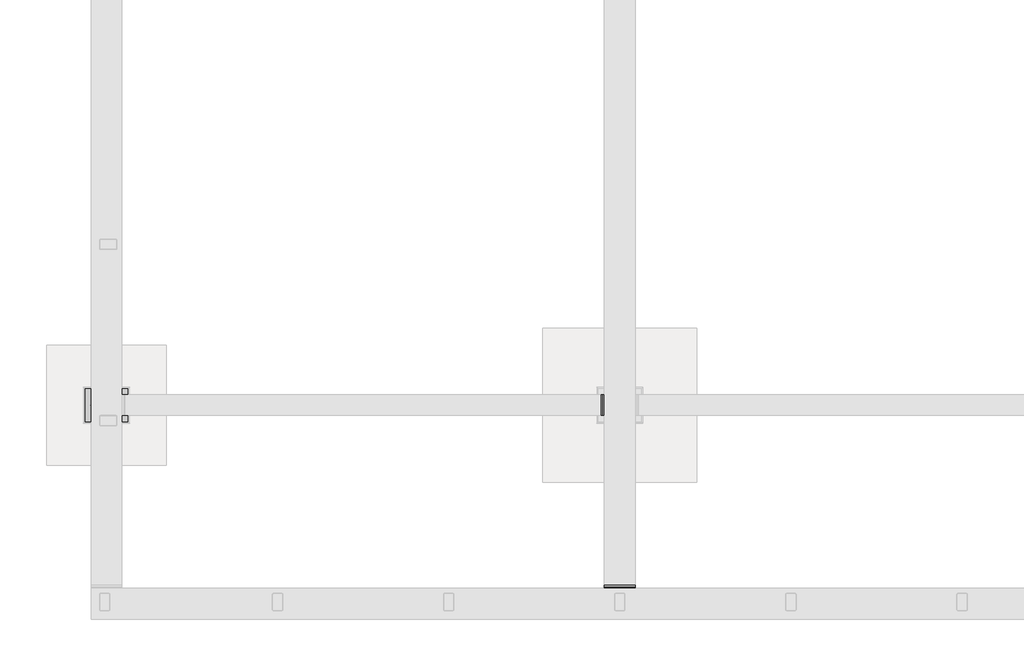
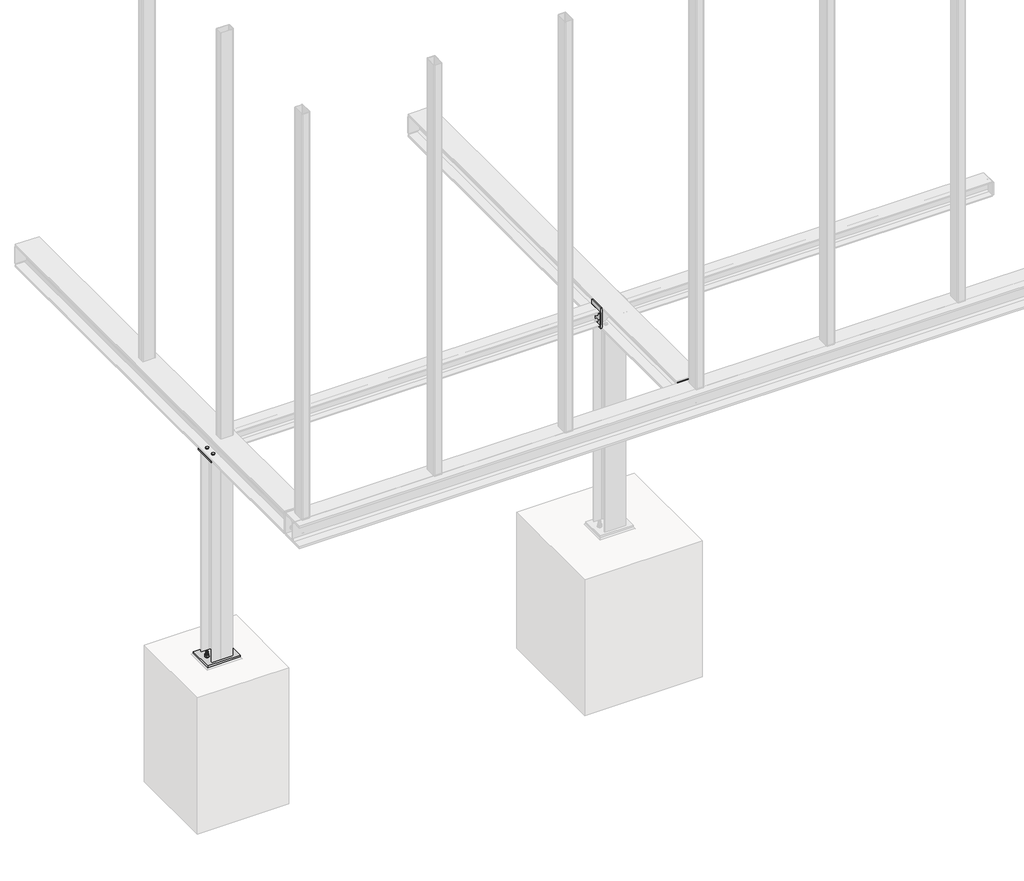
# One storey, part 4 of 31: 11 proxies.
"""IFC4 building model written with IfcOpenShell, lengths in millimetres."""

from ifc_helpers import new_model, si_unit, point, frame, frame_2d, origin, place, context, project, spatial, polyline, circle_curve, trimmed, segment, composite_curve, outline, extrude, element, save

model = new_model("IFC4")

# Units and contexts
model_context = context("Model", 3, world=origin())
ifc_project = project(units=[si_unit("LENGTHUNIT", "METRE", prefix="MILLI")], contexts=[model_context])

# Site, building, storey
site = spatial("IfcSite", under=ifc_project)
building = spatial("IfcBuilding", under=site)
storey = spatial("IfcBuildingStorey", under=building, Name="Základy", Elevation=-1200.0)

# Proxies
placement = place(None, origin())
element("IfcBuildingElementProxy", 1, Name="PLECH", ObjectType="PLECH", at=placement, inside=storey, context=model_context, shape_type="SweptSolid", body=[
    extrude(outline(polyline([(2940.0, 1200.0), (2940.0, 1320.0), (2950.0, 1320.0), (2950.0, 1200.0), (2940.0, 1200.0)])), frame((0.0, 0.0, -299.0), z_axis=(0.0, 0.0, 1.0), x_axis=(1.0, 0.0, 0.0)), (0.0, 0.0, 1.0), 98.0),
])
element("IfcBuildingElementProxy", 2, Name="PLECH", ObjectType="PLECH", at=placement, inside=storey, context=model_context, shape_type="SweptSolid", body=[
    extrude(outline(polyline([(2950.0, 1200.0), (2950.0, 1320.0), (2960.0, 1320.0), (2960.0, 1200.0), (2950.0, 1200.0)])), frame((0.0, 0.0, -332.0), z_axis=(0.0, 0.0, 1.0), x_axis=(1.0, 0.0, 0.0)), (0.0, 0.0, 1.0), 164.0),
])
element("IfcBuildingElementProxy", 3, Name="PLECH", ObjectType="PLECH", at=placement, inside=storey, context=model_context, shape_type="SweptSolid", body=[
    extrude(outline(polyline([(2960.0, 210.0), (3140.0, 210.0), (3140.0, 200.0), (2960.0, 200.0), (2960.0, 210.0)])), frame((0.0, 0.0, -332.0), z_axis=(0.0, 0.0, 1.0), x_axis=(1.0, 0.0, 0.0)), (0.0, 0.0, 1.0), 164.0),
])
element("IfcBuildingElementProxy", 4, Name="PLECH", ObjectType="PLECH", at=placement, inside=storey, context=model_context, shape_type="SweptSolid", body=[
    extrude(outline(composite_curve([segment(polyline([(190.0, -174.0), (190.0, -326.0), (124.25, -326.0)]), True, "CONTINUOUS"), segment(trimmed(circle_curve(frame_2d((104.25, -326.0)), 20.0), [point((124.25, -326.0))], [point((104.25, -306.0))], True, "CARTESIAN"), True, "CONTINUOUS"), segment(polyline([(104.25, -306.0), (104.25, -194.0)]), True, "CONTINUOUS"), segment(trimmed(circle_curve(frame_2d((104.25, -174.0)), 20.0), [point((104.25, -194.0))], [point((124.25, -174.0))], True, "CARTESIAN"), True, "CONTINUOUS"), segment(polyline([(124.25, -174.0), (190.0, -174.0)]), True, "CONTINUOUS")], self_intersect=False)), frame((3046.0, 0.0, 0.0), z_axis=(1.0, 0.0, 0.0), x_axis=(0.0, 1.0, 0.0)), (0.0, 0.0, 1.0), 8.0),
])
element("IfcBuildingElementProxy", 5, Name="PLECH", ObjectType="PLECH", at=placement, inside=storey, context=model_context, shape_type="SweptSolid", body=[
    extrude(outline(polyline([(2960.0, 200.0), (3140.0, 200.0), (3140.0, 190.0), (2960.0, 190.0), (2960.0, 200.0)])), frame((0.0, 0.0, -332.0), z_axis=(0.0, 0.0, 1.0), x_axis=(1.0, 0.0, 0.0)), (0.0, 0.0, 1.0), 164.0),
])
element("IfcBuildingElementProxy", 6, Name="PLECH", ObjectType="PLECH", at=placement, inside=storey, context=model_context, shape_type="SweptSolid", body=[
    extrude(outline(polyline([(175.0, 1356.0), (175.0, 1164.0), (-75.0, 1164.0), (-75.0, 1356.0), (175.0, 1356.0)])), frame((0.0, 0.0, -1990.0), z_axis=(0.0, 0.0, 1.0), x_axis=(1.0, 0.0, 0.0)), (0.0, 0.0, 1.0), 15.0),
])
element("IfcBuildingElementProxy", 7, Name="PLECH", ObjectType="PLECH", at=placement, inside=storey, context=model_context, shape_type="SweptSolid", body=[
    extrude(outline(polyline([(140.0, 1346.0), (140.0, 1174.0), (-40.0, 1174.0), (-40.0, 1346.0), (140.0, 1346.0)])), frame((0.0, 0.0, -350.0), z_axis=(0.0, 0.0, 1.0), x_axis=(1.0, 0.0, 0.0)), (0.0, 0.0, 1.0), 10.0),
])
element("IfcBuildingElementProxy", 8, Name="Bolt assembly", ObjectType="Bolt assembly", at=placement, inside=storey, context=model_context, shape_type="SweptSolid", body=[
    extrude(outline(composite_curve([segment(trimmed(circle_curve(frame_2d((1230.0, -225.0)), 6.5), [point((1230.0, -231.5))], [point((1230.0, -218.5))], False, "CARTESIAN"), True, "CONTINUOUS"), segment(trimmed(circle_curve(frame_2d((1230.0, -225.0)), 6.5), [point((1230.0, -218.5))], [point((1230.0, -231.5))], False, "CARTESIAN"), True, "CONTINUOUS")], self_intersect=False)), frame((140.1, 0.0, 0.0), z_axis=(1.0, 0.0, 0.0), x_axis=(0.0, 1.0, 0.0)), (0.0, 0.0, 1.0), 10.0),
    extrude(outline(polyline([(1230.0, -235.3923048), (1221.0, -230.1961524), (1221.0, -219.8038476), (1230.0, -214.6076952), (1239.0, -219.8038476), (1239.0, -230.1961524), (1230.0, -235.3923048)])), frame((130.0, 0.0, 0.0), z_axis=(1.0, 0.0, 0.0), x_axis=(0.0, 1.0, 0.0)), (0.0, 0.0, 1.0), 7.5),
    extrude(outline(composite_curve([segment(trimmed(circle_curve(frame_2d((1230.0, -225.0)), 6.0), [point((1230.0, -231.0))], [point((1230.0, -219.0))], False, "CARTESIAN"), True, "CONTINUOUS"), segment(trimmed(circle_curve(frame_2d((1230.0, -225.0)), 6.0), [point((1230.0, -219.0))], [point((1230.0, -231.0))], False, "CARTESIAN"), True, "CONTINUOUS")], self_intersect=False)), frame((137.5, 0.0, 0.0), z_axis=(1.0, 0.0, 0.0), x_axis=(0.0, 1.0, 0.0)), (0.0, 0.0, 1.0), 40.0),
    extrude(outline(composite_curve([segment(trimmed(circle_curve(frame_2d((1230.0, -225.0)), 12.0), [point((1230.0, -237.0))], [point((1230.0, -213.0))], False, "CARTESIAN"), True, "CONTINUOUS"), segment(trimmed(circle_curve(frame_2d((1230.0, -225.0)), 12.0), [point((1230.0, -213.0))], [point((1230.0, -237.0))], False, "CARTESIAN"), True, "CONTINUOUS")], self_intersect=False)), frame((137.5, 0.0, 0.0), z_axis=(1.0, 0.0, 0.0), x_axis=(0.0, 1.0, 0.0)), (0.0, 0.0, 1.0), 2.5),
    extrude(outline(composite_curve([segment(trimmed(circle_curve(frame_2d((1230.0, -225.0)), 12.0), [point((1230.0, -237.0))], [point((1230.0, -213.0))], False, "CARTESIAN"), True, "CONTINUOUS"), segment(trimmed(circle_curve(frame_2d((1230.0, -225.0)), 12.0), [point((1230.0, -213.0))], [point((1230.0, -237.0))], False, "CARTESIAN"), True, "CONTINUOUS")], self_intersect=False)), frame((160.0, 0.0, 0.0), z_axis=(1.0, 0.0, 0.0), x_axis=(0.0, 1.0, 0.0)), (0.0, 0.0, 1.0), 2.5),
    extrude(outline(polyline([(1230.0, -235.9696551), (1220.5, -230.4848276), (1220.5, -219.5151724), (1230.0, -214.0303449), (1239.5, -219.5151724), (1239.5, -230.4848276), (1230.0, -235.9696551)])), frame((162.5, 0.0, 0.0), z_axis=(1.0, 0.0, 0.0), x_axis=(0.0, 1.0, 0.0)), (0.0, 0.0, 1.0), 10.0),
    extrude(outline(composite_curve([segment(trimmed(circle_curve(frame_2d((1230.0, -225.0)), 6.5), [point((1230.0, -231.5))], [point((1230.0, -218.5))], False, "CARTESIAN"), True, "CONTINUOUS"), segment(trimmed(circle_curve(frame_2d((1230.0, -225.0)), 6.5), [point((1230.0, -218.5))], [point((1230.0, -231.5))], False, "CARTESIAN"), True, "CONTINUOUS")], self_intersect=False)), frame((149.9, 0.0, 0.0), z_axis=(1.0, 0.0, 0.0), x_axis=(0.0, 1.0, 0.0)), (0.0, 0.0, 1.0), 10.1),
    extrude(outline(composite_curve([segment(trimmed(circle_curve(frame_2d((1230.0, -275.0)), 6.5), [point((1230.0, -281.5))], [point((1230.0, -268.5))], False, "CARTESIAN"), True, "CONTINUOUS"), segment(trimmed(circle_curve(frame_2d((1230.0, -275.0)), 6.5), [point((1230.0, -268.5))], [point((1230.0, -281.5))], False, "CARTESIAN"), True, "CONTINUOUS")], self_intersect=False)), frame((140.1, 0.0, 0.0), z_axis=(1.0, 0.0, 0.0), x_axis=(0.0, 1.0, 0.0)), (0.0, 0.0, 1.0), 10.0),
    extrude(outline(polyline([(1230.0, -285.3923048), (1221.0, -280.1961524), (1221.0, -269.8038476), (1230.0, -264.6076952), (1239.0, -269.8038476), (1239.0, -280.1961524), (1230.0, -285.3923048)])), frame((130.0, 0.0, 0.0), z_axis=(1.0, 0.0, 0.0), x_axis=(0.0, 1.0, 0.0)), (0.0, 0.0, 1.0), 7.5),
    extrude(outline(composite_curve([segment(trimmed(circle_curve(frame_2d((1230.0, -275.0)), 6.0), [point((1230.0, -281.0))], [point((1230.0, -269.0))], False, "CARTESIAN"), True, "CONTINUOUS"), segment(trimmed(circle_curve(frame_2d((1230.0, -275.0)), 6.0), [point((1230.0, -269.0))], [point((1230.0, -281.0))], False, "CARTESIAN"), True, "CONTINUOUS")], self_intersect=False)), frame((137.5, 0.0, 0.0), z_axis=(1.0, 0.0, 0.0), x_axis=(0.0, 1.0, 0.0)), (0.0, 0.0, 1.0), 40.0),
    extrude(outline(composite_curve([segment(trimmed(circle_curve(frame_2d((1230.0, -275.0)), 12.0), [point((1230.0, -287.0))], [point((1230.0, -263.0))], False, "CARTESIAN"), True, "CONTINUOUS"), segment(trimmed(circle_curve(frame_2d((1230.0, -275.0)), 12.0), [point((1230.0, -263.0))], [point((1230.0, -287.0))], False, "CARTESIAN"), True, "CONTINUOUS")], self_intersect=False)), frame((137.5, 0.0, 0.0), z_axis=(1.0, 0.0, 0.0), x_axis=(0.0, 1.0, 0.0)), (0.0, 0.0, 1.0), 2.5),
    extrude(outline(composite_curve([segment(trimmed(circle_curve(frame_2d((1230.0, -275.0)), 12.0), [point((1230.0, -287.0))], [point((1230.0, -263.0))], False, "CARTESIAN"), True, "CONTINUOUS"), segment(trimmed(circle_curve(frame_2d((1230.0, -275.0)), 12.0), [point((1230.0, -263.0))], [point((1230.0, -287.0))], False, "CARTESIAN"), True, "CONTINUOUS")], self_intersect=False)), frame((160.0, 0.0, 0.0), z_axis=(1.0, 0.0, 0.0), x_axis=(0.0, 1.0, 0.0)), (0.0, 0.0, 1.0), 2.5),
    extrude(outline(polyline([(1230.0, -285.9696551), (1220.5, -280.4848276), (1220.5, -269.5151724), (1230.0, -264.0303449), (1239.5, -269.5151724), (1239.5, -280.4848276), (1230.0, -285.9696551)])), frame((162.5, 0.0, 0.0), z_axis=(1.0, 0.0, 0.0), x_axis=(0.0, 1.0, 0.0)), (0.0, 0.0, 1.0), 10.0),
    extrude(outline(composite_curve([segment(trimmed(circle_curve(frame_2d((1230.0, -275.0)), 6.5), [point((1230.0, -281.5))], [point((1230.0, -268.5))], False, "CARTESIAN"), True, "CONTINUOUS"), segment(trimmed(circle_curve(frame_2d((1230.0, -275.0)), 6.5), [point((1230.0, -268.5))], [point((1230.0, -281.5))], False, "CARTESIAN"), True, "CONTINUOUS")], self_intersect=False)), frame((149.9, 0.0, 0.0), z_axis=(1.0, 0.0, 0.0), x_axis=(0.0, 1.0, 0.0)), (0.0, 0.0, 1.0), 10.1),
    extrude(outline(composite_curve([segment(trimmed(circle_curve(frame_2d((1290.0, -225.0)), 6.5), [point((1290.0, -231.5))], [point((1290.0, -218.5))], False, "CARTESIAN"), True, "CONTINUOUS"), segment(trimmed(circle_curve(frame_2d((1290.0, -225.0)), 6.5), [point((1290.0, -218.5))], [point((1290.0, -231.5))], False, "CARTESIAN"), True, "CONTINUOUS")], self_intersect=False)), frame((140.1, 0.0, 0.0), z_axis=(1.0, 0.0, 0.0), x_axis=(0.0, 1.0, 0.0)), (0.0, 0.0, 1.0), 10.0),
    extrude(outline(polyline([(1290.0, -235.3923048), (1281.0, -230.1961524), (1281.0, -219.8038476), (1290.0, -214.6076952), (1299.0, -219.8038476), (1299.0, -230.1961524), (1290.0, -235.3923048)])), frame((130.0, 0.0, 0.0), z_axis=(1.0, 0.0, 0.0), x_axis=(0.0, 1.0, 0.0)), (0.0, 0.0, 1.0), 7.5),
    extrude(outline(composite_curve([segment(trimmed(circle_curve(frame_2d((1290.0, -225.0)), 6.0), [point((1290.0, -231.0))], [point((1290.0, -219.0))], False, "CARTESIAN"), True, "CONTINUOUS"), segment(trimmed(circle_curve(frame_2d((1290.0, -225.0)), 6.0), [point((1290.0, -219.0))], [point((1290.0, -231.0))], False, "CARTESIAN"), True, "CONTINUOUS")], self_intersect=False)), frame((137.5, 0.0, 0.0), z_axis=(1.0, 0.0, 0.0), x_axis=(0.0, 1.0, 0.0)), (0.0, 0.0, 1.0), 40.0),
    extrude(outline(composite_curve([segment(trimmed(circle_curve(frame_2d((1290.0, -225.0)), 12.0), [point((1290.0, -237.0))], [point((1290.0, -213.0))], False, "CARTESIAN"), True, "CONTINUOUS"), segment(trimmed(circle_curve(frame_2d((1290.0, -225.0)), 12.0), [point((1290.0, -213.0))], [point((1290.0, -237.0))], False, "CARTESIAN"), True, "CONTINUOUS")], self_intersect=False)), frame((137.5, 0.0, 0.0), z_axis=(1.0, 0.0, 0.0), x_axis=(0.0, 1.0, 0.0)), (0.0, 0.0, 1.0), 2.5),
    extrude(outline(composite_curve([segment(trimmed(circle_curve(frame_2d((1290.0, -225.0)), 12.0), [point((1290.0, -237.0))], [point((1290.0, -213.0))], False, "CARTESIAN"), True, "CONTINUOUS"), segment(trimmed(circle_curve(frame_2d((1290.0, -225.0)), 12.0), [point((1290.0, -213.0))], [point((1290.0, -237.0))], False, "CARTESIAN"), True, "CONTINUOUS")], self_intersect=False)), frame((160.0, 0.0, 0.0), z_axis=(1.0, 0.0, 0.0), x_axis=(0.0, 1.0, 0.0)), (0.0, 0.0, 1.0), 2.5),
    extrude(outline(polyline([(1290.0, -235.9696551), (1280.5, -230.4848276), (1280.5, -219.5151724), (1290.0, -214.0303449), (1299.5, -219.5151724), (1299.5, -230.4848276), (1290.0, -235.9696551)])), frame((162.5, 0.0, 0.0), z_axis=(1.0, 0.0, 0.0), x_axis=(0.0, 1.0, 0.0)), (0.0, 0.0, 1.0), 10.0),
    extrude(outline(composite_curve([segment(trimmed(circle_curve(frame_2d((1290.0, -225.0)), 6.5), [point((1290.0, -231.5))], [point((1290.0, -218.5))], False, "CARTESIAN"), True, "CONTINUOUS"), segment(trimmed(circle_curve(frame_2d((1290.0, -225.0)), 6.5), [point((1290.0, -218.5))], [point((1290.0, -231.5))], False, "CARTESIAN"), True, "CONTINUOUS")], self_intersect=False)), frame((149.9, 0.0, 0.0), z_axis=(1.0, 0.0, 0.0), x_axis=(0.0, 1.0, 0.0)), (0.0, 0.0, 1.0), 10.1),
    extrude(outline(composite_curve([segment(trimmed(circle_curve(frame_2d((1290.0, -275.0)), 6.5), [point((1290.0, -281.5))], [point((1290.0, -268.5))], False, "CARTESIAN"), True, "CONTINUOUS"), segment(trimmed(circle_curve(frame_2d((1290.0, -275.0)), 6.5), [point((1290.0, -268.5))], [point((1290.0, -281.5))], False, "CARTESIAN"), True, "CONTINUOUS")], self_intersect=False)), frame((140.1, 0.0, 0.0), z_axis=(1.0, 0.0, 0.0), x_axis=(0.0, 1.0, 0.0)), (0.0, 0.0, 1.0), 10.0),
    extrude(outline(polyline([(1290.0, -285.3923048), (1281.0, -280.1961524), (1281.0, -269.8038476), (1290.0, -264.6076952), (1299.0, -269.8038476), (1299.0, -280.1961524), (1290.0, -285.3923048)])), frame((130.0, 0.0, 0.0), z_axis=(1.0, 0.0, 0.0), x_axis=(0.0, 1.0, 0.0)), (0.0, 0.0, 1.0), 7.5),
    extrude(outline(composite_curve([segment(trimmed(circle_curve(frame_2d((1290.0, -275.0)), 6.0), [point((1290.0, -281.0))], [point((1290.0, -269.0))], False, "CARTESIAN"), True, "CONTINUOUS"), segment(trimmed(circle_curve(frame_2d((1290.0, -275.0)), 6.0), [point((1290.0, -269.0))], [point((1290.0, -281.0))], False, "CARTESIAN"), True, "CONTINUOUS")], self_intersect=False)), frame((137.5, 0.0, 0.0), z_axis=(1.0, 0.0, 0.0), x_axis=(0.0, 1.0, 0.0)), (0.0, 0.0, 1.0), 40.0),
    extrude(outline(composite_curve([segment(trimmed(circle_curve(frame_2d((1290.0, -275.0)), 12.0), [point((1290.0, -287.0))], [point((1290.0, -263.0))], False, "CARTESIAN"), True, "CONTINUOUS"), segment(trimmed(circle_curve(frame_2d((1290.0, -275.0)), 12.0), [point((1290.0, -263.0))], [point((1290.0, -287.0))], False, "CARTESIAN"), True, "CONTINUOUS")], self_intersect=False)), frame((137.5, 0.0, 0.0), z_axis=(1.0, 0.0, 0.0), x_axis=(0.0, 1.0, 0.0)), (0.0, 0.0, 1.0), 2.5),
    extrude(outline(composite_curve([segment(trimmed(circle_curve(frame_2d((1290.0, -275.0)), 12.0), [point((1290.0, -287.0))], [point((1290.0, -263.0))], False, "CARTESIAN"), True, "CONTINUOUS"), segment(trimmed(circle_curve(frame_2d((1290.0, -275.0)), 12.0), [point((1290.0, -263.0))], [point((1290.0, -287.0))], False, "CARTESIAN"), True, "CONTINUOUS")], self_intersect=False)), frame((160.0, 0.0, 0.0), z_axis=(1.0, 0.0, 0.0), x_axis=(0.0, 1.0, 0.0)), (0.0, 0.0, 1.0), 2.5),
    extrude(outline(polyline([(1290.0, -285.9696551), (1280.5, -280.4848276), (1280.5, -269.5151724), (1290.0, -264.0303449), (1299.5, -269.5151724), (1299.5, -280.4848276), (1290.0, -285.9696551)])), frame((162.5, 0.0, 0.0), z_axis=(1.0, 0.0, 0.0), x_axis=(0.0, 1.0, 0.0)), (0.0, 0.0, 1.0), 10.0),
    extrude(outline(composite_curve([segment(trimmed(circle_curve(frame_2d((1290.0, -275.0)), 6.5), [point((1290.0, -281.5))], [point((1290.0, -268.5))], False, "CARTESIAN"), True, "CONTINUOUS"), segment(trimmed(circle_curve(frame_2d((1290.0, -275.0)), 6.5), [point((1290.0, -268.5))], [point((1290.0, -281.5))], False, "CARTESIAN"), True, "CONTINUOUS")], self_intersect=False)), frame((149.9, 0.0, 0.0), z_axis=(1.0, 0.0, 0.0), x_axis=(0.0, 1.0, 0.0)), (0.0, 0.0, 1.0), 10.1),
])
element("IfcBuildingElementProxy", 9, Name="Bolt assembly", ObjectType="Bolt assembly", at=placement, inside=storey, context=model_context, shape_type="SweptSolid", body=[
    extrude(outline(composite_curve([segment(trimmed(circle_curve(frame_2d((-290.0, 3005.0)), 9.0), [point((-290.0, 3014.0))], [point((-290.0, 2996.0))], False, "CARTESIAN"), True, "CONTINUOUS"), segment(trimmed(circle_curve(frame_2d((-290.0, 3005.0)), 9.0), [point((-290.0, 2996.0))], [point((-290.0, 3014.0))], False, "CARTESIAN"), True, "CONTINUOUS")], self_intersect=False)), frame((0.0, 190.1, 0.0), z_axis=(0.0, 1.0, 0.0), x_axis=(0.0, 0.0, 1.0)), (0.0, 0.0, 1.0), 10.0),
    extrude(outline(polyline([(-290.0, 3018.8564065), (-278.0, 3011.9282032), (-278.0, 2998.0717968), (-290.0, 2991.1435935), (-302.0, 2998.0717968), (-302.0, 3011.9282032), (-290.0, 3018.8564065)])), frame((0.0, 177.0, 0.0), z_axis=(0.0, 1.0, 0.0), x_axis=(0.0, 0.0, 1.0)), (0.0, 0.0, 1.0), 10.0),
    extrude(outline(composite_curve([segment(trimmed(circle_curve(frame_2d((-290.0, 3005.0)), 8.0), [point((-290.0, 3013.0))], [point((-290.0, 2997.0))], False, "CARTESIAN"), True, "CONTINUOUS"), segment(trimmed(circle_curve(frame_2d((-290.0, 3005.0)), 8.0), [point((-290.0, 2997.0))], [point((-290.0, 3013.0))], False, "CARTESIAN"), True, "CONTINUOUS")], self_intersect=False)), frame((0.0, 187.0, 0.0), z_axis=(0.0, 1.0, 0.0), x_axis=(0.0, 0.0, 1.0)), (0.0, 0.0, 1.0), 50.0),
    extrude(outline(composite_curve([segment(trimmed(circle_curve(frame_2d((-290.0, 3005.0)), 15.0), [point((-290.0, 3020.0))], [point((-290.0, 2990.0))], False, "CARTESIAN"), True, "CONTINUOUS"), segment(trimmed(circle_curve(frame_2d((-290.0, 3005.0)), 15.0), [point((-290.0, 2990.0))], [point((-290.0, 3020.0))], False, "CARTESIAN"), True, "CONTINUOUS")], self_intersect=False)), frame((0.0, 187.0, 0.0), z_axis=(0.0, 1.0, 0.0), x_axis=(0.0, 0.0, 1.0)), (0.0, 0.0, 1.0), 3.0),
    extrude(outline(composite_curve([segment(trimmed(circle_curve(frame_2d((-290.0, 3005.0)), 15.0), [point((-290.0, 3020.0))], [point((-290.0, 2990.0))], False, "CARTESIAN"), True, "CONTINUOUS"), segment(trimmed(circle_curve(frame_2d((-290.0, 3005.0)), 15.0), [point((-290.0, 2990.0))], [point((-290.0, 3020.0))], False, "CARTESIAN"), True, "CONTINUOUS")], self_intersect=False)), frame((0.0, 210.0, 0.0), z_axis=(0.0, 1.0, 0.0), x_axis=(0.0, 0.0, 1.0)), (0.0, 0.0, 1.0), 3.0),
    extrude(outline(polyline([(-290.0, 3020.4441197), (-276.625, 3012.7220599), (-276.625, 2997.2779401), (-290.0, 2989.5558803), (-303.375, 2997.2779401), (-303.375, 3012.7220599), (-290.0, 3020.4441197)])), frame((0.0, 213.0, 0.0), z_axis=(0.0, 1.0, 0.0), x_axis=(0.0, 0.0, 1.0)), (0.0, 0.0, 1.0), 13.0),
    extrude(outline(composite_curve([segment(trimmed(circle_curve(frame_2d((-290.0, 3005.0)), 9.0), [point((-290.0, 3014.0))], [point((-290.0, 2996.0))], False, "CARTESIAN"), True, "CONTINUOUS"), segment(trimmed(circle_curve(frame_2d((-290.0, 3005.0)), 9.0), [point((-290.0, 2996.0))], [point((-290.0, 3014.0))], False, "CARTESIAN"), True, "CONTINUOUS")], self_intersect=False)), frame((0.0, 199.9, 0.0), z_axis=(0.0, 1.0, 0.0), x_axis=(0.0, 0.0, 1.0)), (0.0, 0.0, 1.0), 10.1),
    extrude(outline(composite_curve([segment(trimmed(circle_curve(frame_2d((-290.0, 3095.0)), 9.0), [point((-290.0, 3104.0))], [point((-290.0, 3086.0))], False, "CARTESIAN"), True, "CONTINUOUS"), segment(trimmed(circle_curve(frame_2d((-290.0, 3095.0)), 9.0), [point((-290.0, 3086.0))], [point((-290.0, 3104.0))], False, "CARTESIAN"), True, "CONTINUOUS")], self_intersect=False)), frame((0.0, 190.1, 0.0), z_axis=(0.0, 1.0, 0.0), x_axis=(0.0, 0.0, 1.0)), (0.0, 0.0, 1.0), 10.0),
    extrude(outline(polyline([(-290.0, 3108.8564065), (-278.0, 3101.9282032), (-278.0, 3088.0717968), (-290.0, 3081.1435935), (-302.0, 3088.0717968), (-302.0, 3101.9282032), (-290.0, 3108.8564065)])), frame((0.0, 177.0, 0.0), z_axis=(0.0, 1.0, 0.0), x_axis=(0.0, 0.0, 1.0)), (0.0, 0.0, 1.0), 10.0),
    extrude(outline(composite_curve([segment(trimmed(circle_curve(frame_2d((-290.0, 3095.0)), 8.0), [point((-290.0, 3103.0))], [point((-290.0, 3087.0))], False, "CARTESIAN"), True, "CONTINUOUS"), segment(trimmed(circle_curve(frame_2d((-290.0, 3095.0)), 8.0), [point((-290.0, 3087.0))], [point((-290.0, 3103.0))], False, "CARTESIAN"), True, "CONTINUOUS")], self_intersect=False)), frame((0.0, 187.0, 0.0), z_axis=(0.0, 1.0, 0.0), x_axis=(0.0, 0.0, 1.0)), (0.0, 0.0, 1.0), 50.0),
    extrude(outline(composite_curve([segment(trimmed(circle_curve(frame_2d((-290.0, 3095.0)), 15.0), [point((-290.0, 3110.0))], [point((-290.0, 3080.0))], False, "CARTESIAN"), True, "CONTINUOUS"), segment(trimmed(circle_curve(frame_2d((-290.0, 3095.0)), 15.0), [point((-290.0, 3080.0))], [point((-290.0, 3110.0))], False, "CARTESIAN"), True, "CONTINUOUS")], self_intersect=False)), frame((0.0, 187.0, 0.0), z_axis=(0.0, 1.0, 0.0), x_axis=(0.0, 0.0, 1.0)), (0.0, 0.0, 1.0), 3.0),
    extrude(outline(composite_curve([segment(trimmed(circle_curve(frame_2d((-290.0, 3095.0)), 15.0), [point((-290.0, 3110.0))], [point((-290.0, 3080.0))], False, "CARTESIAN"), True, "CONTINUOUS"), segment(trimmed(circle_curve(frame_2d((-290.0, 3095.0)), 15.0), [point((-290.0, 3080.0))], [point((-290.0, 3110.0))], False, "CARTESIAN"), True, "CONTINUOUS")], self_intersect=False)), frame((0.0, 210.0, 0.0), z_axis=(0.0, 1.0, 0.0), x_axis=(0.0, 0.0, 1.0)), (0.0, 0.0, 1.0), 3.0),
    extrude(outline(polyline([(-290.0, 3110.4441197), (-276.625, 3102.7220599), (-276.625, 3087.2779401), (-290.0, 3079.5558803), (-303.375, 3087.2779401), (-303.375, 3102.7220599), (-290.0, 3110.4441197)])), frame((0.0, 213.0, 0.0), z_axis=(0.0, 1.0, 0.0), x_axis=(0.0, 0.0, 1.0)), (0.0, 0.0, 1.0), 13.0),
    extrude(outline(composite_curve([segment(trimmed(circle_curve(frame_2d((-290.0, 3095.0)), 9.0), [point((-290.0, 3104.0))], [point((-290.0, 3086.0))], False, "CARTESIAN"), True, "CONTINUOUS"), segment(trimmed(circle_curve(frame_2d((-290.0, 3095.0)), 9.0), [point((-290.0, 3086.0))], [point((-290.0, 3104.0))], False, "CARTESIAN"), True, "CONTINUOUS")], self_intersect=False)), frame((0.0, 199.9, 0.0), z_axis=(0.0, 1.0, 0.0), x_axis=(0.0, 0.0, 1.0)), (0.0, 0.0, 1.0), 10.1),
    extrude(outline(composite_curve([segment(trimmed(circle_curve(frame_2d((-210.0, 3005.0)), 9.0), [point((-210.0, 3014.0))], [point((-210.0, 2996.0))], False, "CARTESIAN"), True, "CONTINUOUS"), segment(trimmed(circle_curve(frame_2d((-210.0, 3005.0)), 9.0), [point((-210.0, 2996.0))], [point((-210.0, 3014.0))], False, "CARTESIAN"), True, "CONTINUOUS")], self_intersect=False)), frame((0.0, 190.1, 0.0), z_axis=(0.0, 1.0, 0.0), x_axis=(0.0, 0.0, 1.0)), (0.0, 0.0, 1.0), 10.0),
    extrude(outline(polyline([(-210.0, 3018.8564065), (-198.0, 3011.9282032), (-198.0, 2998.0717968), (-210.0, 2991.1435935), (-222.0, 2998.0717968), (-222.0, 3011.9282032), (-210.0, 3018.8564065)])), frame((0.0, 177.0, 0.0), z_axis=(0.0, 1.0, 0.0), x_axis=(0.0, 0.0, 1.0)), (0.0, 0.0, 1.0), 10.0),
    extrude(outline(composite_curve([segment(trimmed(circle_curve(frame_2d((-210.0, 3005.0)), 8.0), [point((-210.0, 3013.0))], [point((-210.0, 2997.0))], False, "CARTESIAN"), True, "CONTINUOUS"), segment(trimmed(circle_curve(frame_2d((-210.0, 3005.0)), 8.0), [point((-210.0, 2997.0))], [point((-210.0, 3013.0))], False, "CARTESIAN"), True, "CONTINUOUS")], self_intersect=False)), frame((0.0, 187.0, 0.0), z_axis=(0.0, 1.0, 0.0), x_axis=(0.0, 0.0, 1.0)), (0.0, 0.0, 1.0), 50.0),
    extrude(outline(composite_curve([segment(trimmed(circle_curve(frame_2d((-210.0, 3005.0)), 15.0), [point((-210.0, 3020.0))], [point((-210.0, 2990.0))], False, "CARTESIAN"), True, "CONTINUOUS"), segment(trimmed(circle_curve(frame_2d((-210.0, 3005.0)), 15.0), [point((-210.0, 2990.0))], [point((-210.0, 3020.0))], False, "CARTESIAN"), True, "CONTINUOUS")], self_intersect=False)), frame((0.0, 187.0, 0.0), z_axis=(0.0, 1.0, 0.0), x_axis=(0.0, 0.0, 1.0)), (0.0, 0.0, 1.0), 3.0),
    extrude(outline(composite_curve([segment(trimmed(circle_curve(frame_2d((-210.0, 3005.0)), 15.0), [point((-210.0, 3020.0))], [point((-210.0, 2990.0))], False, "CARTESIAN"), True, "CONTINUOUS"), segment(trimmed(circle_curve(frame_2d((-210.0, 3005.0)), 15.0), [point((-210.0, 2990.0))], [point((-210.0, 3020.0))], False, "CARTESIAN"), True, "CONTINUOUS")], self_intersect=False)), frame((0.0, 210.0, 0.0), z_axis=(0.0, 1.0, 0.0), x_axis=(0.0, 0.0, 1.0)), (0.0, 0.0, 1.0), 3.0),
    extrude(outline(polyline([(-210.0, 3020.4441197), (-196.625, 3012.7220599), (-196.625, 2997.2779401), (-210.0, 2989.5558803), (-223.375, 2997.2779401), (-223.375, 3012.7220599), (-210.0, 3020.4441197)])), frame((0.0, 213.0, 0.0), z_axis=(0.0, 1.0, 0.0), x_axis=(0.0, 0.0, 1.0)), (0.0, 0.0, 1.0), 13.0),
    extrude(outline(composite_curve([segment(trimmed(circle_curve(frame_2d((-210.0, 3005.0)), 9.0), [point((-210.0, 3014.0))], [point((-210.0, 2996.0))], False, "CARTESIAN"), True, "CONTINUOUS"), segment(trimmed(circle_curve(frame_2d((-210.0, 3005.0)), 9.0), [point((-210.0, 2996.0))], [point((-210.0, 3014.0))], False, "CARTESIAN"), True, "CONTINUOUS")], self_intersect=False)), frame((0.0, 199.9, 0.0), z_axis=(0.0, 1.0, 0.0), x_axis=(0.0, 0.0, 1.0)), (0.0, 0.0, 1.0), 10.1),
    extrude(outline(composite_curve([segment(trimmed(circle_curve(frame_2d((-210.0, 3095.0)), 9.0), [point((-210.0, 3104.0))], [point((-210.0, 3086.0))], False, "CARTESIAN"), True, "CONTINUOUS"), segment(trimmed(circle_curve(frame_2d((-210.0, 3095.0)), 9.0), [point((-210.0, 3086.0))], [point((-210.0, 3104.0))], False, "CARTESIAN"), True, "CONTINUOUS")], self_intersect=False)), frame((0.0, 190.1, 0.0), z_axis=(0.0, 1.0, 0.0), x_axis=(0.0, 0.0, 1.0)), (0.0, 0.0, 1.0), 10.0),
    extrude(outline(polyline([(-210.0, 3108.8564065), (-198.0, 3101.9282032), (-198.0, 3088.0717968), (-210.0, 3081.1435935), (-222.0, 3088.0717968), (-222.0, 3101.9282032), (-210.0, 3108.8564065)])), frame((0.0, 177.0, 0.0), z_axis=(0.0, 1.0, 0.0), x_axis=(0.0, 0.0, 1.0)), (0.0, 0.0, 1.0), 10.0),
    extrude(outline(composite_curve([segment(trimmed(circle_curve(frame_2d((-210.0, 3095.0)), 8.0), [point((-210.0, 3103.0))], [point((-210.0, 3087.0))], False, "CARTESIAN"), True, "CONTINUOUS"), segment(trimmed(circle_curve(frame_2d((-210.0, 3095.0)), 8.0), [point((-210.0, 3087.0))], [point((-210.0, 3103.0))], False, "CARTESIAN"), True, "CONTINUOUS")], self_intersect=False)), frame((0.0, 187.0, 0.0), z_axis=(0.0, 1.0, 0.0), x_axis=(0.0, 0.0, 1.0)), (0.0, 0.0, 1.0), 50.0),
    extrude(outline(composite_curve([segment(trimmed(circle_curve(frame_2d((-210.0, 3095.0)), 15.0), [point((-210.0, 3110.0))], [point((-210.0, 3080.0))], False, "CARTESIAN"), True, "CONTINUOUS"), segment(trimmed(circle_curve(frame_2d((-210.0, 3095.0)), 15.0), [point((-210.0, 3080.0))], [point((-210.0, 3110.0))], False, "CARTESIAN"), True, "CONTINUOUS")], self_intersect=False)), frame((0.0, 187.0, 0.0), z_axis=(0.0, 1.0, 0.0), x_axis=(0.0, 0.0, 1.0)), (0.0, 0.0, 1.0), 3.0),
    extrude(outline(composite_curve([segment(trimmed(circle_curve(frame_2d((-210.0, 3095.0)), 15.0), [point((-210.0, 3110.0))], [point((-210.0, 3080.0))], False, "CARTESIAN"), True, "CONTINUOUS"), segment(trimmed(circle_curve(frame_2d((-210.0, 3095.0)), 15.0), [point((-210.0, 3080.0))], [point((-210.0, 3110.0))], False, "CARTESIAN"), True, "CONTINUOUS")], self_intersect=False)), frame((0.0, 210.0, 0.0), z_axis=(0.0, 1.0, 0.0), x_axis=(0.0, 0.0, 1.0)), (0.0, 0.0, 1.0), 3.0),
    extrude(outline(polyline([(-210.0, 3110.4441197), (-196.625, 3102.7220599), (-196.625, 3087.2779401), (-210.0, 3079.5558803), (-223.375, 3087.2779401), (-223.375, 3102.7220599), (-210.0, 3110.4441197)])), frame((0.0, 213.0, 0.0), z_axis=(0.0, 1.0, 0.0), x_axis=(0.0, 0.0, 1.0)), (0.0, 0.0, 1.0), 13.0),
    extrude(outline(composite_curve([segment(trimmed(circle_curve(frame_2d((-210.0, 3095.0)), 9.0), [point((-210.0, 3104.0))], [point((-210.0, 3086.0))], False, "CARTESIAN"), True, "CONTINUOUS"), segment(trimmed(circle_curve(frame_2d((-210.0, 3095.0)), 9.0), [point((-210.0, 3086.0))], [point((-210.0, 3104.0))], False, "CARTESIAN"), True, "CONTINUOUS")], self_intersect=False)), frame((0.0, 199.9, 0.0), z_axis=(0.0, 1.0, 0.0), x_axis=(0.0, 0.0, 1.0)), (0.0, 0.0, 1.0), 10.1),
])
element("IfcBuildingElementProxy", 10, Name="Bolt assembly", ObjectType="Bolt assembly", at=placement, inside=storey, context=model_context, shape_type="SweptSolid", body=[
    extrude(outline(composite_curve([segment(trimmed(circle_curve(frame_2d((0.0, 1220.0)), 6.5), [point((6.5, 1220.0))], [point((-6.5, 1220.0))], False, "CARTESIAN"), True, "CONTINUOUS"), segment(trimmed(circle_curve(frame_2d((0.0, 1220.0)), 6.5), [point((-6.5, 1220.0))], [point((6.5, 1220.0))], False, "CARTESIAN"), True, "CONTINUOUS")], self_intersect=False)), frame((0.0, 0.0, -350.0), z_axis=(0.0, 0.0, 1.0), x_axis=(1.0, 0.0, 0.0)), (0.0, 0.0, 1.0), 10.1),
    extrude(outline(polyline([(10.3923048, 1220.0), (5.1961524, 1211.0), (-5.1961524, 1211.0), (-10.3923048, 1220.0), (-5.1961524, 1229.0), (5.1961524, 1229.0), (10.3923048, 1220.0)])), frame((0.0, 0.0, -323.5), z_axis=(0.0, 0.0, 1.0), x_axis=(1.0, 0.0, 0.0)), (0.0, 0.0, 1.0), 7.5),
    extrude(outline(composite_curve([segment(trimmed(circle_curve(frame_2d((0.0, 1220.0)), 6.0), [point((6.0, 1220.0))], [point((-6.0, 1220.0))], False, "CARTESIAN"), True, "CONTINUOUS"), segment(trimmed(circle_curve(frame_2d((0.0, 1220.0)), 6.0), [point((-6.0, 1220.0))], [point((6.0, 1220.0))], False, "CARTESIAN"), True, "CONTINUOUS")], self_intersect=False)), frame((0.0, 0.0, -368.5), z_axis=(0.0, 0.0, 1.0), x_axis=(1.0, 0.0, 0.0)), (0.0, 0.0, 1.0), 45.0),
    extrude(outline(composite_curve([segment(trimmed(circle_curve(frame_2d((0.0, 1220.0)), 12.0), [point((12.0, 1220.0))], [point((-12.0, 1220.0))], False, "CARTESIAN"), True, "CONTINUOUS"), segment(trimmed(circle_curve(frame_2d((0.0, 1220.0)), 12.0), [point((-12.0, 1220.0))], [point((12.0, 1220.0))], False, "CARTESIAN"), True, "CONTINUOUS")], self_intersect=False)), frame((0.0, 0.0, -326.0), z_axis=(0.0, 0.0, 1.0), x_axis=(1.0, 0.0, 0.0)), (0.0, 0.0, 1.0), 2.5),
    extrude(outline(composite_curve([segment(trimmed(circle_curve(frame_2d((0.0, 1220.0)), 12.0), [point((12.0, 1220.0))], [point((-12.0, 1220.0))], False, "CARTESIAN"), True, "CONTINUOUS"), segment(trimmed(circle_curve(frame_2d((0.0, 1220.0)), 12.0), [point((-12.0, 1220.0))], [point((12.0, 1220.0))], False, "CARTESIAN"), True, "CONTINUOUS")], self_intersect=False)), frame((0.0, 0.0, -352.5), z_axis=(0.0, 0.0, 1.0), x_axis=(1.0, 0.0, 0.0)), (0.0, 0.0, 1.0), 2.5),
    extrude(outline(polyline([(10.9696551, 1220.0), (5.4848276, 1210.5), (-5.4848276, 1210.5), (-10.9696551, 1220.0), (-5.4848276, 1229.5), (5.4848276, 1229.5), (10.9696551, 1220.0)])), frame((0.0, 0.0, -362.5), z_axis=(0.0, 0.0, 1.0), x_axis=(1.0, 0.0, 0.0)), (0.0, 0.0, 1.0), 10.0),
    extrude(outline(composite_curve([segment(trimmed(circle_curve(frame_2d((0.0, 1220.0)), 6.5), [point((6.5, 1220.0))], [point((-6.5, 1220.0))], False, "CARTESIAN"), True, "CONTINUOUS"), segment(trimmed(circle_curve(frame_2d((0.0, 1220.0)), 6.5), [point((-6.5, 1220.0))], [point((6.5, 1220.0))], False, "CARTESIAN"), True, "CONTINUOUS")], self_intersect=False)), frame((0.0, 0.0, -340.1), z_axis=(0.0, 0.0, 1.0), x_axis=(1.0, 0.0, 0.0)), (0.0, 0.0, 1.0), 14.0),
    extrude(outline(composite_curve([segment(trimmed(circle_curve(frame_2d((100.0, 1220.0)), 6.5), [point((106.5, 1220.0))], [point((93.5, 1220.0))], False, "CARTESIAN"), True, "CONTINUOUS"), segment(trimmed(circle_curve(frame_2d((100.0, 1220.0)), 6.5), [point((93.5, 1220.0))], [point((106.5, 1220.0))], False, "CARTESIAN"), True, "CONTINUOUS")], self_intersect=False)), frame((0.0, 0.0, -350.0), z_axis=(0.0, 0.0, 1.0), x_axis=(1.0, 0.0, 0.0)), (0.0, 0.0, 1.0), 10.1),
    extrude(outline(polyline([(110.3923048, 1220.0), (105.1961524, 1211.0), (94.8038476, 1211.0), (89.6076952, 1220.0), (94.8038476, 1229.0), (105.1961524, 1229.0), (110.3923048, 1220.0)])), frame((0.0, 0.0, -323.5), z_axis=(0.0, 0.0, 1.0), x_axis=(1.0, 0.0, 0.0)), (0.0, 0.0, 1.0), 7.5),
    extrude(outline(composite_curve([segment(trimmed(circle_curve(frame_2d((100.0, 1220.0)), 6.0), [point((106.0, 1220.0))], [point((94.0, 1220.0))], False, "CARTESIAN"), True, "CONTINUOUS"), segment(trimmed(circle_curve(frame_2d((100.0, 1220.0)), 6.0), [point((94.0, 1220.0))], [point((106.0, 1220.0))], False, "CARTESIAN"), True, "CONTINUOUS")], self_intersect=False)), frame((0.0, 0.0, -368.5), z_axis=(0.0, 0.0, 1.0), x_axis=(1.0, 0.0, 0.0)), (0.0, 0.0, 1.0), 45.0),
    extrude(outline(composite_curve([segment(trimmed(circle_curve(frame_2d((100.0, 1220.0)), 12.0), [point((112.0, 1220.0))], [point((88.0, 1220.0))], False, "CARTESIAN"), True, "CONTINUOUS"), segment(trimmed(circle_curve(frame_2d((100.0, 1220.0)), 12.0), [point((88.0, 1220.0))], [point((112.0, 1220.0))], False, "CARTESIAN"), True, "CONTINUOUS")], self_intersect=False)), frame((0.0, 0.0, -326.0), z_axis=(0.0, 0.0, 1.0), x_axis=(1.0, 0.0, 0.0)), (0.0, 0.0, 1.0), 2.5),
    extrude(outline(composite_curve([segment(trimmed(circle_curve(frame_2d((100.0, 1220.0)), 12.0), [point((112.0, 1220.0))], [point((88.0, 1220.0))], False, "CARTESIAN"), True, "CONTINUOUS"), segment(trimmed(circle_curve(frame_2d((100.0, 1220.0)), 12.0), [point((88.0, 1220.0))], [point((112.0, 1220.0))], False, "CARTESIAN"), True, "CONTINUOUS")], self_intersect=False)), frame((0.0, 0.0, -352.5), z_axis=(0.0, 0.0, 1.0), x_axis=(1.0, 0.0, 0.0)), (0.0, 0.0, 1.0), 2.5),
    extrude(outline(polyline([(110.9696551, 1220.0), (105.4848276, 1210.5), (94.5151724, 1210.5), (89.0303449, 1220.0), (94.5151724, 1229.5), (105.4848276, 1229.5), (110.9696551, 1220.0)])), frame((0.0, 0.0, -362.5), z_axis=(0.0, 0.0, 1.0), x_axis=(1.0, 0.0, 0.0)), (0.0, 0.0, 1.0), 10.0),
    extrude(outline(composite_curve([segment(trimmed(circle_curve(frame_2d((100.0, 1220.0)), 6.5), [point((106.5, 1220.0))], [point((93.5, 1220.0))], False, "CARTESIAN"), True, "CONTINUOUS"), segment(trimmed(circle_curve(frame_2d((100.0, 1220.0)), 6.5), [point((93.5, 1220.0))], [point((106.5, 1220.0))], False, "CARTESIAN"), True, "CONTINUOUS")], self_intersect=False)), frame((0.0, 0.0, -340.1), z_axis=(0.0, 0.0, 1.0), x_axis=(1.0, 0.0, 0.0)), (0.0, 0.0, 1.0), 14.0),
    extrude(outline(composite_curve([segment(trimmed(circle_curve(frame_2d((0.0, 1300.0)), 6.5), [point((6.5, 1300.0))], [point((-6.5, 1300.0))], False, "CARTESIAN"), True, "CONTINUOUS"), segment(trimmed(circle_curve(frame_2d((0.0, 1300.0)), 6.5), [point((-6.5, 1300.0))], [point((6.5, 1300.0))], False, "CARTESIAN"), True, "CONTINUOUS")], self_intersect=False)), frame((0.0, 0.0, -350.0), z_axis=(0.0, 0.0, 1.0), x_axis=(1.0, 0.0, 0.0)), (0.0, 0.0, 1.0), 10.1),
    extrude(outline(polyline([(10.3923048, 1300.0), (5.1961524, 1291.0), (-5.1961524, 1291.0), (-10.3923048, 1300.0), (-5.1961524, 1309.0), (5.1961524, 1309.0), (10.3923048, 1300.0)])), frame((0.0, 0.0, -323.5), z_axis=(0.0, 0.0, 1.0), x_axis=(1.0, 0.0, 0.0)), (0.0, 0.0, 1.0), 7.5),
    extrude(outline(composite_curve([segment(trimmed(circle_curve(frame_2d((0.0, 1300.0)), 6.0), [point((6.0, 1300.0))], [point((-6.0, 1300.0))], False, "CARTESIAN"), True, "CONTINUOUS"), segment(trimmed(circle_curve(frame_2d((0.0, 1300.0)), 6.0), [point((-6.0, 1300.0))], [point((6.0, 1300.0))], False, "CARTESIAN"), True, "CONTINUOUS")], self_intersect=False)), frame((0.0, 0.0, -368.5), z_axis=(0.0, 0.0, 1.0), x_axis=(1.0, 0.0, 0.0)), (0.0, 0.0, 1.0), 45.0),
    extrude(outline(composite_curve([segment(trimmed(circle_curve(frame_2d((0.0, 1300.0)), 12.0), [point((12.0, 1300.0))], [point((-12.0, 1300.0))], False, "CARTESIAN"), True, "CONTINUOUS"), segment(trimmed(circle_curve(frame_2d((0.0, 1300.0)), 12.0), [point((-12.0, 1300.0))], [point((12.0, 1300.0))], False, "CARTESIAN"), True, "CONTINUOUS")], self_intersect=False)), frame((0.0, 0.0, -326.0), z_axis=(0.0, 0.0, 1.0), x_axis=(1.0, 0.0, 0.0)), (0.0, 0.0, 1.0), 2.5),
    extrude(outline(composite_curve([segment(trimmed(circle_curve(frame_2d((0.0, 1300.0)), 12.0), [point((12.0, 1300.0))], [point((-12.0, 1300.0))], False, "CARTESIAN"), True, "CONTINUOUS"), segment(trimmed(circle_curve(frame_2d((0.0, 1300.0)), 12.0), [point((-12.0, 1300.0))], [point((12.0, 1300.0))], False, "CARTESIAN"), True, "CONTINUOUS")], self_intersect=False)), frame((0.0, 0.0, -352.5), z_axis=(0.0, 0.0, 1.0), x_axis=(1.0, 0.0, 0.0)), (0.0, 0.0, 1.0), 2.5),
    extrude(outline(polyline([(10.9696551, 1300.0), (5.4848276, 1290.5), (-5.4848276, 1290.5), (-10.9696551, 1300.0), (-5.4848276, 1309.5), (5.4848276, 1309.5), (10.9696551, 1300.0)])), frame((0.0, 0.0, -362.5), z_axis=(0.0, 0.0, 1.0), x_axis=(1.0, 0.0, 0.0)), (0.0, 0.0, 1.0), 10.0),
    extrude(outline(composite_curve([segment(trimmed(circle_curve(frame_2d((0.0, 1300.0)), 6.5), [point((6.5, 1300.0))], [point((-6.5, 1300.0))], False, "CARTESIAN"), True, "CONTINUOUS"), segment(trimmed(circle_curve(frame_2d((0.0, 1300.0)), 6.5), [point((-6.5, 1300.0))], [point((6.5, 1300.0))], False, "CARTESIAN"), True, "CONTINUOUS")], self_intersect=False)), frame((0.0, 0.0, -340.1), z_axis=(0.0, 0.0, 1.0), x_axis=(1.0, 0.0, 0.0)), (0.0, 0.0, 1.0), 14.0),
    extrude(outline(composite_curve([segment(trimmed(circle_curve(frame_2d((100.0, 1300.0)), 6.5), [point((106.5, 1300.0))], [point((93.5, 1300.0))], False, "CARTESIAN"), True, "CONTINUOUS"), segment(trimmed(circle_curve(frame_2d((100.0, 1300.0)), 6.5), [point((93.5, 1300.0))], [point((106.5, 1300.0))], False, "CARTESIAN"), True, "CONTINUOUS")], self_intersect=False)), frame((0.0, 0.0, -350.0), z_axis=(0.0, 0.0, 1.0), x_axis=(1.0, 0.0, 0.0)), (0.0, 0.0, 1.0), 10.1),
    extrude(outline(polyline([(110.3923048, 1300.0), (105.1961524, 1291.0), (94.8038476, 1291.0), (89.6076952, 1300.0), (94.8038476, 1309.0), (105.1961524, 1309.0), (110.3923048, 1300.0)])), frame((0.0, 0.0, -323.5), z_axis=(0.0, 0.0, 1.0), x_axis=(1.0, 0.0, 0.0)), (0.0, 0.0, 1.0), 7.5),
    extrude(outline(composite_curve([segment(trimmed(circle_curve(frame_2d((100.0, 1300.0)), 6.0), [point((106.0, 1300.0))], [point((94.0, 1300.0))], False, "CARTESIAN"), True, "CONTINUOUS"), segment(trimmed(circle_curve(frame_2d((100.0, 1300.0)), 6.0), [point((94.0, 1300.0))], [point((106.0, 1300.0))], False, "CARTESIAN"), True, "CONTINUOUS")], self_intersect=False)), frame((0.0, 0.0, -368.5), z_axis=(0.0, 0.0, 1.0), x_axis=(1.0, 0.0, 0.0)), (0.0, 0.0, 1.0), 45.0),
    extrude(outline(composite_curve([segment(trimmed(circle_curve(frame_2d((100.0, 1300.0)), 12.0), [point((112.0, 1300.0))], [point((88.0, 1300.0))], False, "CARTESIAN"), True, "CONTINUOUS"), segment(trimmed(circle_curve(frame_2d((100.0, 1300.0)), 12.0), [point((88.0, 1300.0))], [point((112.0, 1300.0))], False, "CARTESIAN"), True, "CONTINUOUS")], self_intersect=False)), frame((0.0, 0.0, -326.0), z_axis=(0.0, 0.0, 1.0), x_axis=(1.0, 0.0, 0.0)), (0.0, 0.0, 1.0), 2.5),
    extrude(outline(composite_curve([segment(trimmed(circle_curve(frame_2d((100.0, 1300.0)), 12.0), [point((112.0, 1300.0))], [point((88.0, 1300.0))], False, "CARTESIAN"), True, "CONTINUOUS"), segment(trimmed(circle_curve(frame_2d((100.0, 1300.0)), 12.0), [point((88.0, 1300.0))], [point((112.0, 1300.0))], False, "CARTESIAN"), True, "CONTINUOUS")], self_intersect=False)), frame((0.0, 0.0, -352.5), z_axis=(0.0, 0.0, 1.0), x_axis=(1.0, 0.0, 0.0)), (0.0, 0.0, 1.0), 2.5),
    extrude(outline(polyline([(110.9696551, 1300.0), (105.4848276, 1290.5), (94.5151724, 1290.5), (89.0303449, 1300.0), (94.5151724, 1309.5), (105.4848276, 1309.5), (110.9696551, 1300.0)])), frame((0.0, 0.0, -362.5), z_axis=(0.0, 0.0, 1.0), x_axis=(1.0, 0.0, 0.0)), (0.0, 0.0, 1.0), 10.0),
    extrude(outline(composite_curve([segment(trimmed(circle_curve(frame_2d((100.0, 1300.0)), 6.5), [point((106.5, 1300.0))], [point((93.5, 1300.0))], False, "CARTESIAN"), True, "CONTINUOUS"), segment(trimmed(circle_curve(frame_2d((100.0, 1300.0)), 6.5), [point((93.5, 1300.0))], [point((106.5, 1300.0))], False, "CARTESIAN"), True, "CONTINUOUS")], self_intersect=False)), frame((0.0, 0.0, -340.1), z_axis=(0.0, 0.0, 1.0), x_axis=(1.0, 0.0, 0.0)), (0.0, 0.0, 1.0), 14.0),
])
element("IfcBuildingElementProxy", 11, Name="Bolt assembly", ObjectType="Bolt assembly", at=placement, inside=storey, context=model_context, shape_type="SweptSolid", body=[
    extrude(outline(polyline([(-17.2635066, 1260.0), (-21.1317533, 1253.3000002), (-28.8682467, 1253.3000002), (-32.7364934, 1260.0), (-28.8682467, 1266.6999998), (-21.1317533, 1266.6999998), (-17.2635066, 1260.0)])), frame((0.0, 0.0, -2122.0), z_axis=(0.0, 0.0, 1.0), x_axis=(1.0, 0.0, 0.0)), (0.0, 0.0, 1.0), 132.0),
    extrude(outline(composite_curve([segment(trimmed(circle_curve(frame_2d((-25.0, 1260.0)), 8.0), [point((-17.0, 1260.0))], [point((-33.0, 1260.0))], False, "CARTESIAN"), True, "CONTINUOUS"), segment(trimmed(circle_curve(frame_2d((-25.0, 1260.0)), 8.0), [point((-33.0, 1260.0))], [point((-17.0, 1260.0))], False, "CARTESIAN"), True, "CONTINUOUS")], self_intersect=False)), frame((0.0, 0.0, -1990.0), z_axis=(0.0, 0.0, 1.0), x_axis=(1.0, 0.0, 0.0)), (0.0, 0.0, 1.0), 58.0),
    extrude(outline(composite_curve([segment(trimmed(circle_curve(frame_2d((-25.0, 1260.0)), 15.0), [point((-10.0, 1260.0))], [point((-40.0, 1260.0))], False, "CARTESIAN"), True, "CONTINUOUS"), segment(trimmed(circle_curve(frame_2d((-25.0, 1260.0)), 15.0), [point((-40.0, 1260.0))], [point((-10.0, 1260.0))], False, "CARTESIAN"), True, "CONTINUOUS")], self_intersect=False)), frame((0.0, 0.0, -1975.0), z_axis=(0.0, 0.0, 1.0), x_axis=(1.0, 0.0, 0.0)), (0.0, 0.0, 1.0), 3.0),
    extrude(outline(polyline([(-9.5558803, 1260.0), (-17.2779401, 1246.625), (-32.7220599, 1246.625), (-40.4441197, 1260.0), (-32.7220599, 1273.375), (-17.2779401, 1273.375), (-9.5558803, 1260.0)])), frame((0.0, 0.0, -1972.0), z_axis=(0.0, 0.0, 1.0), x_axis=(1.0, 0.0, 0.0)), (0.0, 0.0, 1.0), 13.0),
    extrude(outline(composite_curve([segment(trimmed(circle_curve(frame_2d((-25.0, 1260.0)), 9.0), [point((-16.0, 1260.0))], [point((-34.0, 1260.0))], False, "CARTESIAN"), True, "CONTINUOUS"), segment(trimmed(circle_curve(frame_2d((-25.0, 1260.0)), 9.0), [point((-34.0, 1260.0))], [point((-16.0, 1260.0))], False, "CARTESIAN"), True, "CONTINUOUS")], self_intersect=False)), frame((0.0, 0.0, -1990.0), z_axis=(0.0, 0.0, 1.0), x_axis=(1.0, 0.0, 0.0)), (0.0, 0.0, 1.0), 15.1),
    extrude(outline(polyline([(132.7364934, 1260.0), (128.8682467, 1253.3000002), (121.1317533, 1253.3000002), (117.2635066, 1260.0), (121.1317533, 1266.6999998), (128.8682467, 1266.6999998), (132.7364934, 1260.0)])), frame((0.0, 0.0, -2122.0), z_axis=(0.0, 0.0, 1.0), x_axis=(1.0, 0.0, 0.0)), (0.0, 0.0, 1.0), 132.0),
    extrude(outline(composite_curve([segment(trimmed(circle_curve(frame_2d((125.0, 1260.0)), 8.0), [point((133.0, 1260.0))], [point((117.0, 1260.0))], False, "CARTESIAN"), True, "CONTINUOUS"), segment(trimmed(circle_curve(frame_2d((125.0, 1260.0)), 8.0), [point((117.0, 1260.0))], [point((133.0, 1260.0))], False, "CARTESIAN"), True, "CONTINUOUS")], self_intersect=False)), frame((0.0, 0.0, -1990.0), z_axis=(0.0, 0.0, 1.0), x_axis=(1.0, 0.0, 0.0)), (0.0, 0.0, 1.0), 58.0),
    extrude(outline(composite_curve([segment(trimmed(circle_curve(frame_2d((125.0, 1260.0)), 15.0), [point((140.0, 1260.0))], [point((110.0, 1260.0))], False, "CARTESIAN"), True, "CONTINUOUS"), segment(trimmed(circle_curve(frame_2d((125.0, 1260.0)), 15.0), [point((110.0, 1260.0))], [point((140.0, 1260.0))], False, "CARTESIAN"), True, "CONTINUOUS")], self_intersect=False)), frame((0.0, 0.0, -1975.0), z_axis=(0.0, 0.0, 1.0), x_axis=(1.0, 0.0, 0.0)), (0.0, 0.0, 1.0), 3.0),
    extrude(outline(polyline([(140.4441197, 1260.0), (132.7220599, 1246.625), (117.2779401, 1246.625), (109.5558803, 1260.0), (117.2779401, 1273.375), (132.7220599, 1273.375), (140.4441197, 1260.0)])), frame((0.0, 0.0, -1972.0), z_axis=(0.0, 0.0, 1.0), x_axis=(1.0, 0.0, 0.0)), (0.0, 0.0, 1.0), 13.0),
    extrude(outline(composite_curve([segment(trimmed(circle_curve(frame_2d((125.0, 1260.0)), 9.0), [point((134.0, 1260.0))], [point((116.0, 1260.0))], False, "CARTESIAN"), True, "CONTINUOUS"), segment(trimmed(circle_curve(frame_2d((125.0, 1260.0)), 9.0), [point((116.0, 1260.0))], [point((134.0, 1260.0))], False, "CARTESIAN"), True, "CONTINUOUS")], self_intersect=False)), frame((0.0, 0.0, -1990.0), z_axis=(0.0, 0.0, 1.0), x_axis=(1.0, 0.0, 0.0)), (0.0, 0.0, 1.0), 15.1),
])

save(model, "model.ifc")
